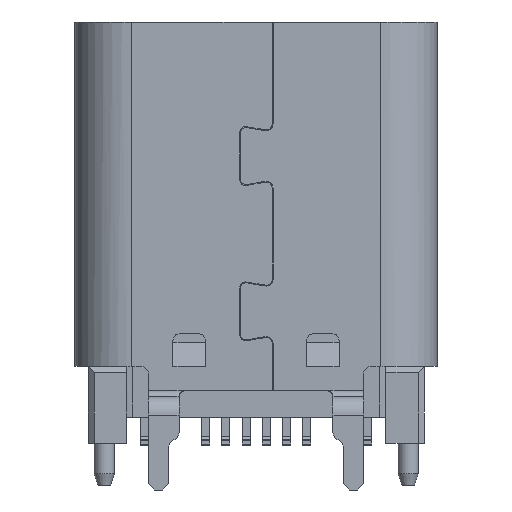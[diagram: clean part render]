
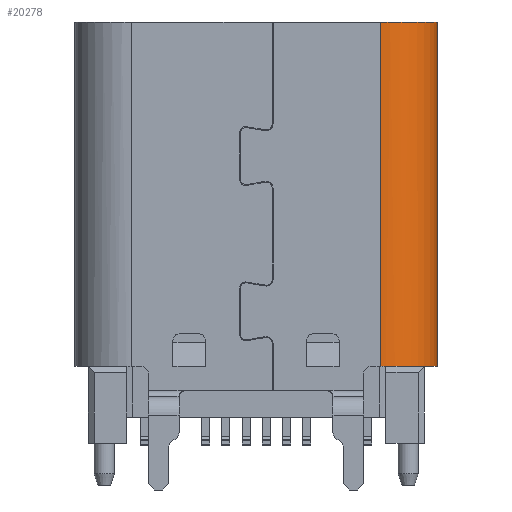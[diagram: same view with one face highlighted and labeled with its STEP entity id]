
A CAD part, front view. The second image highlights one B-rep face of the part: STEP entity #20278.
In plain terms, the highlighted cylindrical face has radius 1.4 mm (diameter 2.8 mm), a partial arc.
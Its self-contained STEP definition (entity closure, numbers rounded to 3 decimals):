
#143=CARTESIAN_POINT('',(-58.33,-2.231,-45.273));
#144=DIRECTION('',(0.,0.,1.));
#145=DIRECTION('',(0.775,-0.632,0.));
#146=AXIS2_PLACEMENT_3D('',#143,#144,#145);
#188=CARTESIAN_POINT('',(-58.33,-2.231,-45.273));
#189=DIRECTION('',(0.,0.,1.));
#190=DIRECTION('',(0.,-1.,0.));
#191=AXIS2_PLACEMENT_3D('',#188,#189,#190);
#5523=CARTESIAN_POINT('',(-58.33,-2.231,-36.773));
#5524=DIRECTION('',(0.,0.,-1.));
#5525=DIRECTION('',(1.,0.,0.));
#5526=AXIS2_PLACEMENT_3D('',#5523,#5524,#5525);
#7365=CARTESIAN_POINT('',(-58.33,-2.231,-45.273));
#7366=DIRECTION('',(0.,0.,1.));
#7367=DIRECTION('',(0.096,-0.995,0.));
#7368=AXIS2_PLACEMENT_3D('',#7365,#7366,#7367);
#7370=DIRECTION('',(0.,0.,1.));
#7371=VECTOR('',#7370,8.5);
#7372=CARTESIAN_POINT('',(-58.33,-3.631,
-45.273));
#7373=LINE('',#7372,#7371);
#7374=DIRECTION('',(0.,0.,-1.));
#7375=VECTOR('',#7374,8.5);
#7376=CARTESIAN_POINT('',(-56.93,-2.231,-36.773));
#7377=LINE('',#7376,#7375);
#7898=CARTESIAN_POINT('',(-58.33,-3.631,
-45.273));
#7899=VERTEX_POINT('',#7898);
#7901=CARTESIAN_POINT('',(-56.93,-2.231,-45.273));
#7903=VERTEX_POINT('',#7901);
#8035=CARTESIAN_POINT('',(-56.93,-2.231,-36.773));
#8036=VERTEX_POINT('',#8035);
#8037=CARTESIAN_POINT('',(-58.33,-3.631,
-36.773));
#8038=VERTEX_POINT('',#8037);
#9751=CARTESIAN_POINT('',(-57.245,-3.116,
-45.273));
#9752=VERTEX_POINT('',#9751);
#9757=CARTESIAN_POINT('',(-58.195,-3.625,
-45.273));
#9758=VERTEX_POINT('',#9757);
#20265=CARTESIAN_POINT('',(-58.33,-2.231,-45.42));
#20266=DIRECTION('',(0.,0.,1.));
#20267=DIRECTION('',(-1.,0.,0.));
#20268=AXIS2_PLACEMENT_3D('',#20265,#20266,#20267);
#20269=CYLINDRICAL_SURFACE('',#20268,1.4);
#20270=ORIENTED_EDGE('',*,*,#10407,.F.);
#20271=ORIENTED_EDGE('',*,*,#10518,.F.);
#20272=ORIENTED_EDGE('',*,*,#17988,.T.);
#20273=ORIENTED_EDGE('',*,*,#17925,.F.);
#20274=ORIENTED_EDGE('',*,*,#20260,.T.);
#20275=ORIENTED_EDGE('',*,*,#10489,.F.);
#20276=EDGE_LOOP('',(#20270,#20271,#20272,#20273,#20274,#20275));
#20277=FACE_OUTER_BOUND('',#20276,.F.);
#147=CIRCLE('',#146,1.4);
#192=CIRCLE('',#191,1.4);
#5527=CIRCLE('',#5526,1.4);
#7369=CIRCLE('',#7368,1.4);
#10407=EDGE_CURVE('',#9758,#9752,#7369,.T.);
#10489=EDGE_CURVE('',#9752,#7903,#147,.T.);
#10518=EDGE_CURVE('',#7899,#9758,#192,.T.);
#17925=EDGE_CURVE('',#8036,#8038,#5527,.T.);
#17988=EDGE_CURVE('',#7899,#8038,#7373,.T.);
#20260=EDGE_CURVE('',#8036,#7903,#7377,.T.);
#20278=ADVANCED_FACE('',(#20277),#20269,.T.);
